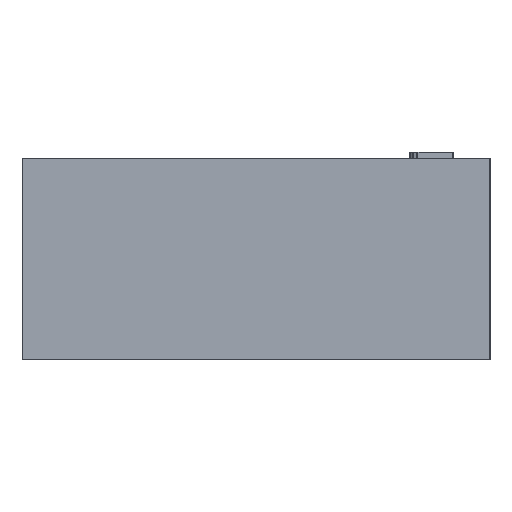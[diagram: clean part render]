
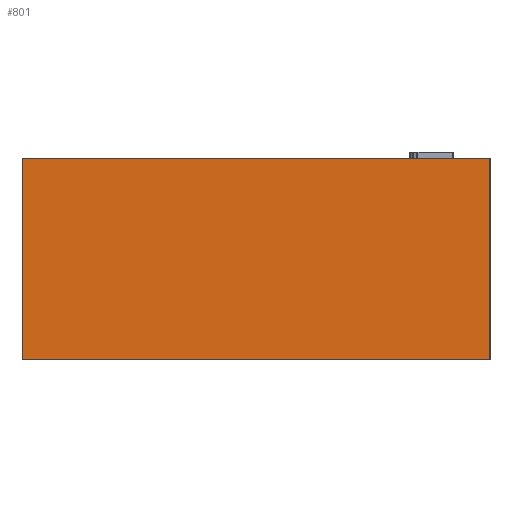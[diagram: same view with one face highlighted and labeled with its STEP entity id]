
A CAD part, left-side view. The second image highlights one B-rep face of the part: STEP entity #801.
In plain terms, the highlighted planar face has unit normal (-1, 0, 0).
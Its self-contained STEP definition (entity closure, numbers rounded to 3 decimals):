
#602=FACE_OUTER_BOUND('',#1969,.T.);
#801=ADVANCED_FACE('',(#602),#995,.F.);
#995=PLANE('',#4038);
#1213=LINE('',#5525,#1569);
#1217=LINE('',#5534,#1573);
#1218=LINE('',#5537,#1574);
#1219=LINE('',#5538,#1575);
#1569=VECTOR('',#4316,1.);
#1573=VECTOR('',#4322,1.);
#1574=VECTOR('',#4323,1.);
#1575=VECTOR('',#4324,1.);
#1969=EDGE_LOOP('',(#2295,#2296,#2297,#2298));
#2295=ORIENTED_EDGE('',*,*,#3538,.T.);
#2296=ORIENTED_EDGE('',*,*,#3539,.F.);
#2297=ORIENTED_EDGE('',*,*,#3534,.F.);
#2298=ORIENTED_EDGE('',*,*,#3540,.T.);
#3219=VERTEX_POINT('',#5526);
#3220=VERTEX_POINT('',#5527);
#3223=VERTEX_POINT('',#5535);
#3224=VERTEX_POINT('',#5536);
#3534=EDGE_CURVE('',#3219,#3220,#1213,.T.);
#3538=EDGE_CURVE('',#3223,#3224,#1217,.T.);
#3539=EDGE_CURVE('',#3220,#3224,#1218,.T.);
#3540=EDGE_CURVE('',#3219,#3223,#1219,.T.);
#4038=AXIS2_PLACEMENT_3D('',#5539,#4325,#4326);
#4316=DIRECTION('',(0.,-1.,0.));
#4322=DIRECTION('',(0.,-1.,0.));
#4323=DIRECTION('',(0.,0.,-1.));
#4324=DIRECTION('',(0.,0.,-1.));
#4325=DIRECTION('',(1.,0.,0.));
#4326=DIRECTION('',(0.,0.,-1.));
#5525=CARTESIAN_POINT('',(-60.,19.75,17.));
#5526=CARTESIAN_POINT('',(-60.,19.75,17.));
#5527=CARTESIAN_POINT('',(-60.,-19.75,17.));
#5534=CARTESIAN_POINT('',(-60.,19.75,0.));
#5535=CARTESIAN_POINT('',(-60.,19.75,0.));
#5536=CARTESIAN_POINT('',(-60.,-19.75,0.));
#5537=CARTESIAN_POINT('',(-60.,-19.75,17.));
#5538=CARTESIAN_POINT('',(-60.,19.75,17.));
#5539=CARTESIAN_POINT('',(-60.,19.75,17.));
